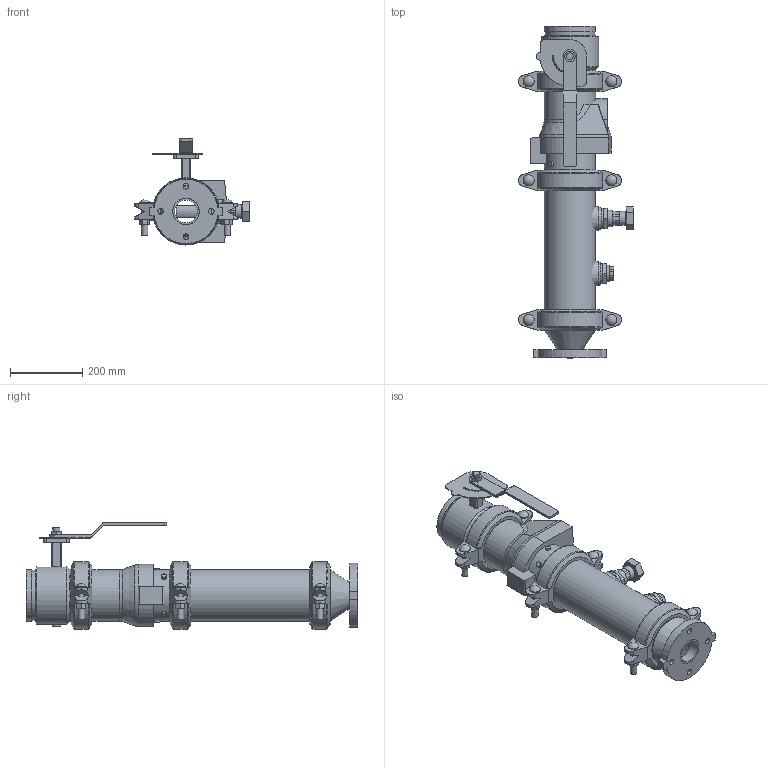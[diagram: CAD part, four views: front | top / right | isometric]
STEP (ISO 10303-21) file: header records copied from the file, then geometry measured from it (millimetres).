
FILE_DESCRIPTION(/* description */ ('VIC DVI PUMP DROP VERT S/380 (OGSxFLG) (S/924-1.25)','CAx-IF Rec.Pracs.---Representation and Presentation of Product Manufacturing Information (PMI)---4.0---2014-10-13'),/* implementation_level */ '2;1');
FILE_NAME(/* name */ 'C:\Users\Public\Documents\Victaulic.Temp\A765\Victaulic_IPS_Vertical DVI_CL 150_Series 380 (OGSxFLG)_924 (1.25)_05.0x02.5 (125x65).stp',/* time_stamp */ '2022-07-25T11:11:17+02:00',/* author */ ('Vjadhav'),/* organization */ ('Victaulic'),/* preprocessor_version */ 'ST-DEVELOPER v18',/* originating_system */ 'Autodesk Inventor 2020',/* authorisation */ '');
FILE_SCHEMA (('AP242_MANAGED_MODEL_BASED_3D_ENGINEERING_MIM_LF { 1 0 10303 442 1 1 4 }'));
Length unit declared in the file: inch
Products named in the file (9): 380_924 (1.25)-05.0x02.5; 741-02.5; 050-05.0x02.5; Pipe-05.0; 177N-05.0; 761-05.0; 779-05.0; 923-04.0x0.75; 924-04.0x01.25
Assembly tree (10 placements, depth 2):
  380_924 (1.25)-05.0x02.5
    741-02.5
    050-05.0x02.5
    177N-05.0  x3
    Pipe-05.0
    761-05.0
    779-05.0
    923-04.0x0.75
    924-04.0x01.25
Bounding box: 317.31 x 917.58 x 293.24 mm (x, y, z)
Volume: 7693831.5 mm3; surface area: 1396175 mm2
Topology: 10 solids, 12 shells, 601 faces, 1561 edges, 1045 vertices
Faces by surface type: plane 356, cylinder 199, cone 20, torus 18, sphere 6, bspline 2
Full cylindrical faces by diameter (mm): 4.826 x10, 8.636 x4, 13.716 x4, 15.875 x4, 17.78 x6, 19.05 x2, 21.336 x1, 22.86 x1, 26.67 x2, 30.48 x6, 38.608 x1, 42.164 x1, 45.974 x4, 48.514 x1, 55.118 x1, 55.626 x2, 62.713 x1, 69.088 x1, 73.025 x3, 128.194 x4, 128.6 x3, 137.033 x7, 141.3 x19, 160.02 x1
Entity records: 14316 total; most frequent: CARTESIAN_POINT 2834, DIRECTION 2364, ORIENTED_EDGE 2150, EDGE_CURVE 1075, AXIS2_PLACEMENT_3D 895, VERTEX_POINT 725, LINE 574, VECTOR 574
